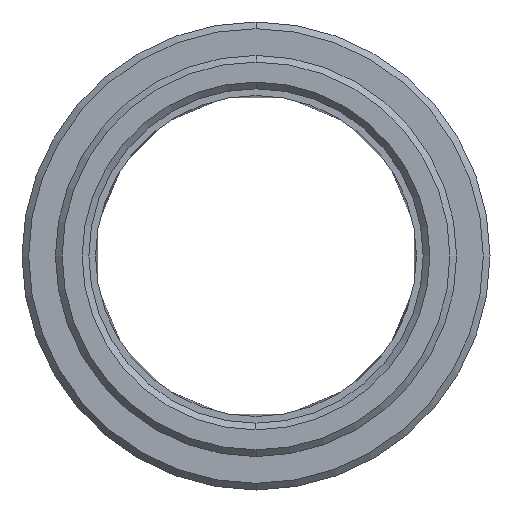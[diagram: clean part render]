
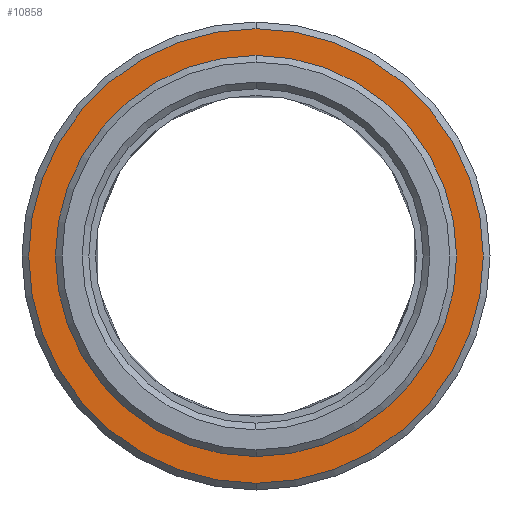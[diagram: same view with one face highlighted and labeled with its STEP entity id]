
A CAD part, left-side view. The second image highlights one B-rep face of the part: STEP entity #10858.
In plain terms, the highlighted planar face has unit normal (-1, 0, 0).
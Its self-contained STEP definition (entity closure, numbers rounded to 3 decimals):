
#4292=CARTESIAN_POINT('',(0.,0.,0.));
#4293=DIRECTION('',(1.,0.,0.));
#4294=DIRECTION('',(0.,0.,1.));
#4295=AXIS2_PLACEMENT_3D('',#4292,#4293,#4294);
#4297=CARTESIAN_POINT('',(0.,0.,0.));
#4298=DIRECTION('',(-1.,0.,0.));
#4299=DIRECTION('',(0.,0.,1.));
#4300=AXIS2_PLACEMENT_3D('',#4297,#4298,#4299);
#4302=CARTESIAN_POINT('',(0.,0.,
0.));
#4303=DIRECTION('',(1.,0.,0.));
#4304=DIRECTION('',(0.,0.,-1.));
#4305=AXIS2_PLACEMENT_3D('',#4302,#4303,#4304);
#4307=CARTESIAN_POINT('',(0.,0.,
0.));
#4308=DIRECTION('',(1.,0.,0.));
#4309=DIRECTION('',(0.,0.,1.));
#4310=AXIS2_PLACEMENT_3D('',#4307,#4308,#4309);
#8770=CARTESIAN_POINT('',(0.,0.,-17.));
#8771=CARTESIAN_POINT('',(0.,0.,17.));
#8772=VERTEX_POINT('',#8770);
#8773=VERTEX_POINT('',#8771);
#9074=CARTESIAN_POINT('',(0.,0.,15.));
#9075=CARTESIAN_POINT('',(0.,0.,-15.));
#9076=VERTEX_POINT('',#9074);
#9077=VERTEX_POINT('',#9075);
#10843=CARTESIAN_POINT('',(0.,0.,0.));
#10844=DIRECTION('',(1.,0.,0.));
#10845=DIRECTION('',(0.,0.,1.));
#10846=AXIS2_PLACEMENT_3D('',#10843,#10844,#10845);
#10847=PLANE('',#10846);
#10849=ORIENTED_EDGE('',*,*,#10848,.T.);
#10851=ORIENTED_EDGE('',*,*,#10850,.T.);
#10852=EDGE_LOOP('',(#10849,#10851));
#10853=FACE_OUTER_BOUND('',#10852,.F.);
#10854=ORIENTED_EDGE('',*,*,#10810,.F.);
#10855=ORIENTED_EDGE('',*,*,#10825,.T.);
#10856=EDGE_LOOP('',(#10854,#10855));
#10857=FACE_BOUND('',#10856,.F.);
#10858=ADVANCED_FACE('',(#10853,#10857),#10847,.F.);
#4296=CIRCLE('',#4295,15.);
#4301=CIRCLE('',#4300,15.);
#4306=CIRCLE('',#4305,17.);
#4311=CIRCLE('',#4310,17.);
#10810=EDGE_CURVE('',#9076,#9077,#4296,.T.);
#10825=EDGE_CURVE('',#9076,#9077,#4301,.T.);
#10848=EDGE_CURVE('',#8772,#8773,#4306,.T.);
#10850=EDGE_CURVE('',#8773,#8772,#4311,.T.);
